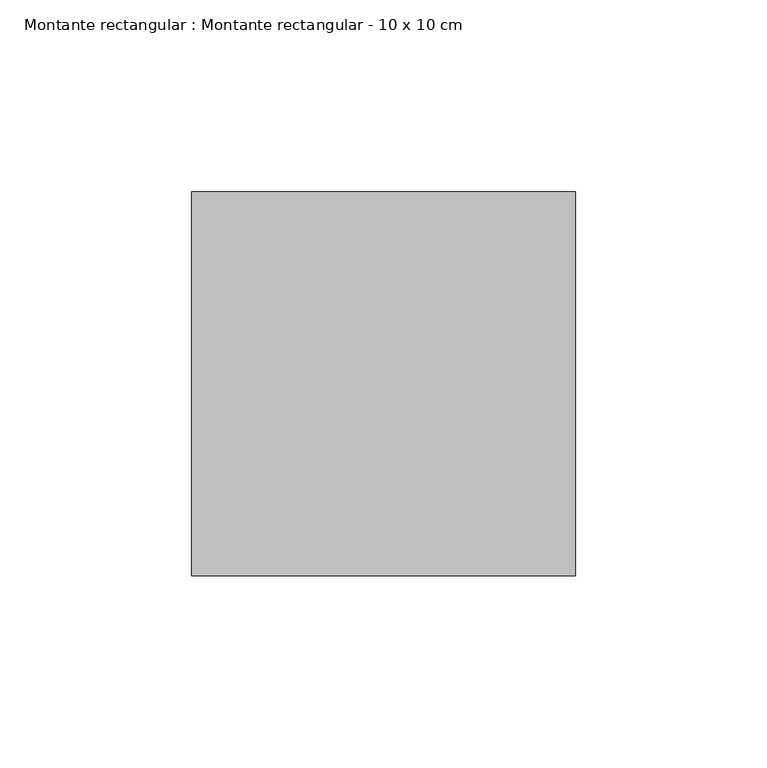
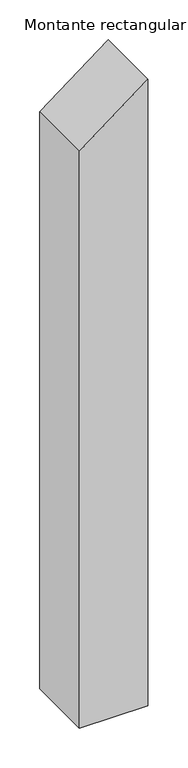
"""IFC4 building model written with IfcOpenShell, lengths in millimetres: member geometry, Montante rectangular : Montante rectangular - 10 x 10 cm."""

from ifc_helpers import new_model, si_unit, frame, origin, place, context, project, spatial, polyline, outline, extrude, source, transform, mapped, element, save


def montante_rectangular_montante_rectangular_10_x_10_cm_149f6d21(model_context):
    return source(origin(), model_context, "Body", "SweptSolid", [
        extrude(outline(polyline([(0.0, 0.0), (-76.0047951, -100.0), (-964.7809759, -100.0), (-964.7809759, 0.0), (0.0, 0.0)])), frame((0.0, -50.0, 0.0), z_axis=(0.0, 1.0, 0.0), x_axis=(0.0, 0.0, 1.0)), (0.0, 0.0, 1.0), 100.0),
    ])


if __name__ == "__main__":
    model = new_model("IFC4")
    model_context = context("Model", 3, world=origin())
    ifc_project = project(units=[si_unit("LENGTHUNIT", "METRE", prefix="MILLI")], contexts=[model_context])
    site = spatial("IfcSite", under=ifc_project)
    building = spatial("IfcBuilding", under=site)
    placement = place(None, origin())
    montante_rectangular_montante_rectangular_10_x_10_cm_shape = montante_rectangular_montante_rectangular_10_x_10_cm_149f6d21(model_context)
    element("IfcMember", 1, ObjectType="Montante rectangular : Montante rectangular - 10 x 10 cm", at=placement, inside=building, context=model_context, shape_type="MappedRepresentation", body=[
        mapped(montante_rectangular_montante_rectangular_10_x_10_cm_shape, transform((0.0, 0.0, 0.0), x_axis=(1.0, 0.0, 0.0), y_axis=(0.0, 1.0, 0.0), z_axis=(0.0, 0.0, 1.0))),
    ])
    save(model, "model.ifc")
